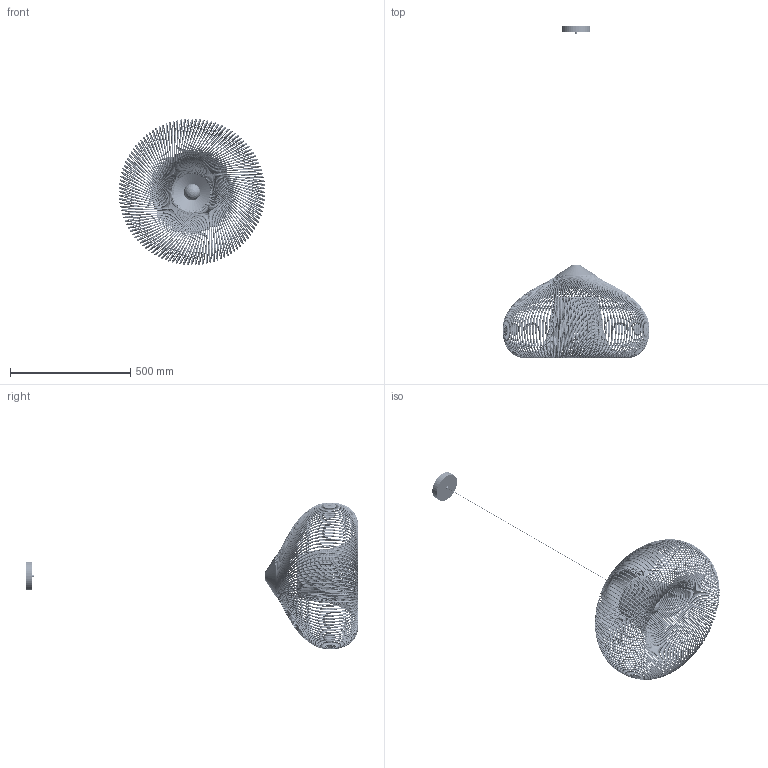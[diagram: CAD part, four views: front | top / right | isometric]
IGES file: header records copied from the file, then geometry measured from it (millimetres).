
Start section: SolidWorks IGES file using analytic representation for surfaces
Global section: file name: F:\燠隴矨\3D\2025-4\Braided Rattan Pendant Lamp-ModelA-D60cm.IGS,15; native system: HSolidWorks 2022; preprocessor: SolidWorks 2022; author: MyPC; date: 250409.142122; units: millimetre
Bounding box: 609.78 x 1378.09 x 609.78 mm (x, y, z)
Surface area: 1746173.1 mm2 (no closed solid volume)
Topology: 0 solids, 0 shells, 587 faces, 9882 edges, 9879 vertices
Faces by surface type: bspline 525, revolution 62
